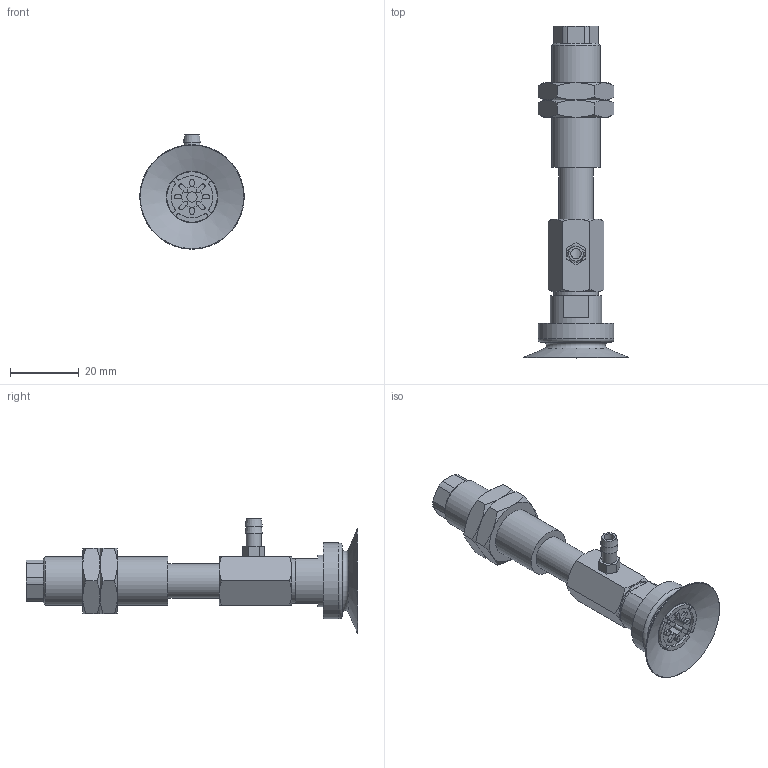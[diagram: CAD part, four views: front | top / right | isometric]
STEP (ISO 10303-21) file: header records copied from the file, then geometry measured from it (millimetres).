
FILE_DESCRIPTION(('STEP AP203'),'1');
FILE_NAME('-T.stp','2025-02-28T05:56:35',(' '),(' '),'Spatial InterOp 3D',' ',' ');
FILE_SCHEMA(('CONFIG_CONTROL_DESIGN'));
Length unit declared in the file: millimetre
Products named in the file (7): BNABPAYS-30-15-※-T; NAPAYS-30B-15--M; NAPAYS-30B-15--F; Nut-25-S; CONNECTOR-30B-15-PA; T; BPAG-30-※
Assembly tree (7 placements, depth 2):
  BNABPAYS-30-15-※-T
    NAPAYS-30B-15--M
    NAPAYS-30B-15--F
    Nut-25-S  x2
    CONNECTOR-30B-15-PA
    T
    BPAG-30-※
Bounding box: 30.3 x 96.2 x 33.15 mm (x, y, z)
Volume: 16310.1 mm3; surface area: 12341.4 mm2
Topology: 7 solids, 7 shells, 216 faces, 489 edges, 308 vertices
Faces by surface type: plane 99, cylinder 61, cone 54, torus 2
Full cylindrical faces by diameter (mm): 3 x3, 4.134 x2, 4.3 x1, 4.6 x1, 4.917 x1, 5 x2, 6 x1, 10 x2, 12.917 x2, 13 x1, 14 x1, 15 x1, 22 x1
Entity records: 5914 total; most frequent: CARTESIAN_POINT 1276, DIRECTION 930, ORIENTED_EDGE 808, EDGE_CURVE 404, AXIS2_PLACEMENT_3D 376, VERTEX_POINT 278, EDGE_LOOP 260, FACE_OUTER_BOUND 213
